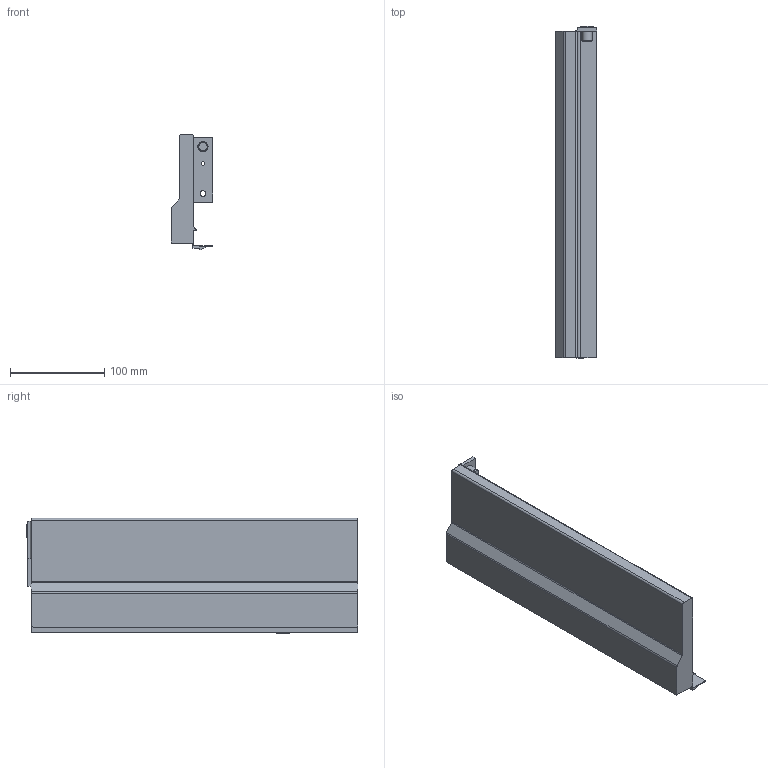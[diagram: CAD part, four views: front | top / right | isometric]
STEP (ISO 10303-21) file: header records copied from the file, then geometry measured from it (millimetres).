
FILE_DESCRIPTION (( 'STEP AP214' ), '1' );
FILE_NAME ('_IMOS_NOVA-Pro_Dekor-H122_CL_NL350_LI.step', '2010-07-06T09:36:09', ( 'grass' ), ( '' ), 'SwSTEP 2.0', 'SolidWorks 2009', '' );
FILE_SCHEMA (( 'AUTOMOTIVE_DESIGN' ));
Length unit declared in the file: millimetre
Products named in the file (1): _IMOS_NOVA-Pro_Dekor-H122_CL_NL350_LI
Bounding box: 44.3 x 352.7 x 122.49 mm (x, y, z)
Volume: 482136.9 mm3; surface area: 146144.6 mm2
Topology: 1 solids, 1 shells, 73 faces, 194 edges, 128 vertices
Faces by surface type: plane 42, cylinder 26, cone 4, bspline 1
Entity records: 2325 total; most frequent: CARTESIAN_POINT 417, DIRECTION 394, ORIENTED_EDGE 388, EDGE_CURVE 194, VECTOR 136, LINE 136, AXIS2_PLACEMENT_3D 129, VERTEX_POINT 128
